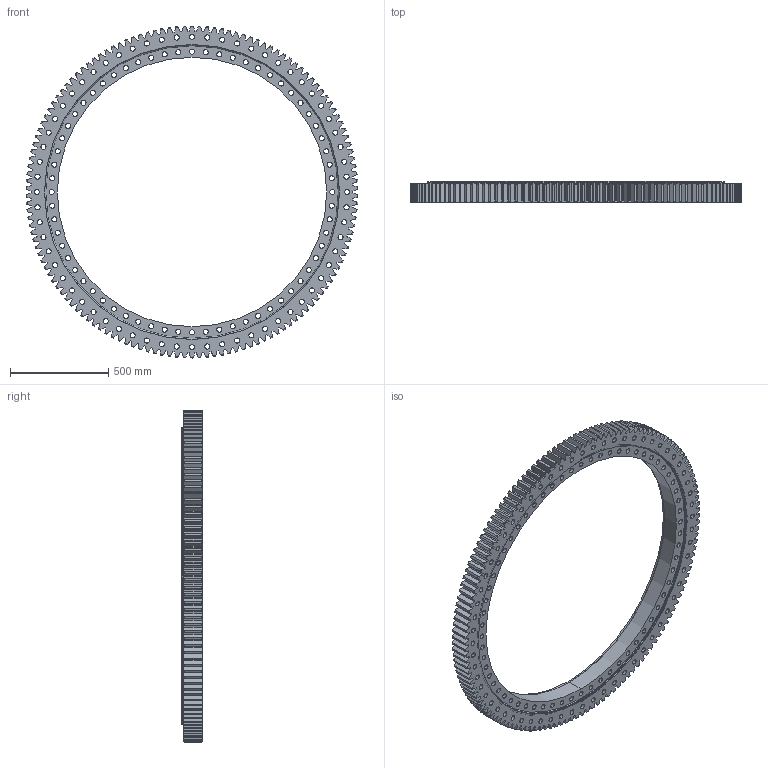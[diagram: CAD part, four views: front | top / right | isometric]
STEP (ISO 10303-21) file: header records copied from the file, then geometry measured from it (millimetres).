
FILE_DESCRIPTION (( 'STEP AP203' ), '1' );
FILE_NAME ('B2225-2-1690AA.STEP', '2022-07-07T08:42:20', ( '' ), ( '' ), 'SwSTEP 2.0', 'SolidWorks 2020', '' );
FILE_SCHEMA (( 'CONFIG_CONTROL_DESIGN' ));
Length unit declared in the file: millimetre
Products named in the file (1): B2225-2-1690AA
Bounding box: 1689.37 x 105 x 1689.6 mm (x, y, z)
Volume: 60257591.6 mm3; surface area: 4982643.2 mm2
Topology: 4 solids, 4 shells, 1134 faces, 3352 edges, 2233 vertices
Faces by surface type: cylinder 419, cone 286, bspline 276, plane 153
Entity records: 39868 total; most frequent: CARTESIAN_POINT 10860, ORIENTED_EDGE 6704, DIRECTION 5095, EDGE_CURVE 3352, VERTEX_POINT 2233, AXIS2_PLACEMENT_3D 1988, EDGE_LOOP 1405, FACE_OUTER_BOUND 1134
